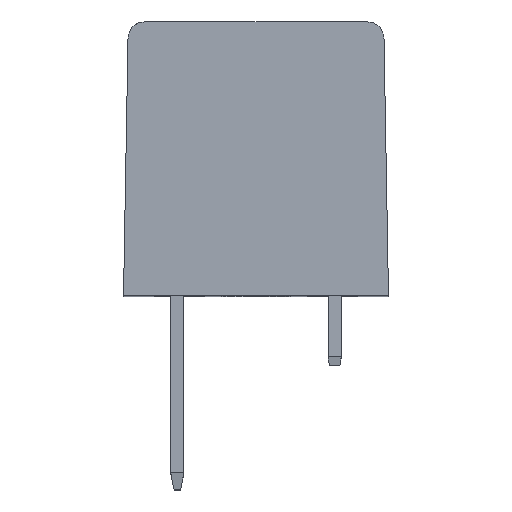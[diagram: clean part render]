
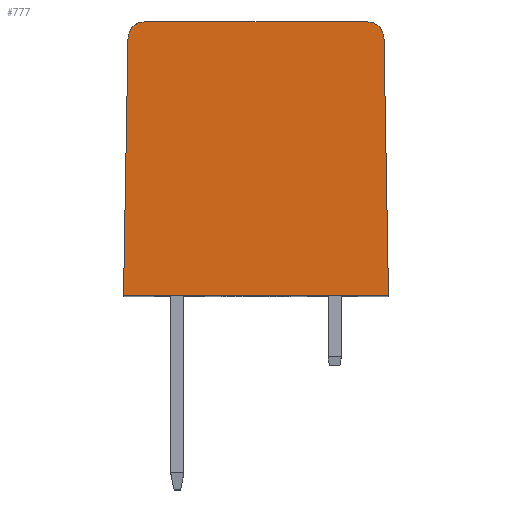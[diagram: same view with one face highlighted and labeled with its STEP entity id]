
A CAD part, top view. The second image highlights one B-rep face of the part: STEP entity #777.
In plain terms, the highlighted planar face has unit normal (0, 0, 1).
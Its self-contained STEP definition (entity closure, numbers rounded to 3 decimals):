
#42 = CARTESIAN_POINT ( 'NONE',  ( -15.729, 15.517, 0. ) ) ;
#49 = CARTESIAN_POINT ( 'NONE',  ( -14.729, 16.5, 0. ) ) ;
#527 = AXIS2_PLACEMENT_3D ( 'NONE', #9734, #9906, #12997 ) ;
#640 = EDGE_CURVE ( 'NONE', #5553, #1854, #11127, .T. ) ;
#777 = ADVANCED_FACE ( 'NONE', ( #4967 ), #10775, .T. ) ;
#809 = EDGE_CURVE ( 'NONE', #6269, #9613, #10135, .T. ) ;
#1854 = VERTEX_POINT ( 'NONE', #8728 ) ;
#2157 = ORIENTED_EDGE ( 'NONE', *, *, #10945, .T. ) ;
#2342 = VERTEX_POINT ( 'NONE', #49 ) ;
#2671 = DIRECTION ( 'NONE',  ( -0.017, -1., 0. ) ) ;
#2824 = CARTESIAN_POINT ( 'NONE',  ( 0., 0., 0. ) ) ;
#3509 = AXIS2_PLACEMENT_3D ( 'NONE', #9544, #6417, #11759 ) ;
#3906 = LINE ( 'NONE', #10730, #5681 ) ;
#4561 = DIRECTION ( 'NONE',  ( 1., 0., 0. ) ) ;
#4667 = AXIS2_PLACEMENT_3D ( 'NONE', #6617, #11875, #4561 ) ;
#4967 = FACE_OUTER_BOUND ( 'NONE', #10067, .T. ) ;
#5553 = VERTEX_POINT ( 'NONE', #10254 ) ;
#5620 = CARTESIAN_POINT ( 'NONE',  ( -16., 0., 0. ) ) ;
#5681 = VECTOR ( 'NONE', #6412, 1000. ) ;
#6269 = VERTEX_POINT ( 'NONE', #42 ) ;
#6412 = DIRECTION ( 'NONE',  ( -0.017, 1., 0. ) ) ;
#6417 = DIRECTION ( 'NONE',  ( 0., 0., -1. ) ) ;
#6428 = DIRECTION ( 'NONE',  ( 1., 0., 0. ) ) ;
#6475 = EDGE_CURVE ( 'NONE', #9613, #8262, #6501, .T. ) ;
#6501 = LINE ( 'NONE', #11766, #11217 ) ;
#6617 = CARTESIAN_POINT ( 'NONE',  ( -14.729, 15.5, 0. ) ) ;
#7907 = LINE ( 'NONE', #9696, #10181 ) ;
#8262 = VERTEX_POINT ( 'NONE', #2824 ) ;
#8728 = CARTESIAN_POINT ( 'NONE',  ( -0.271, 15.517, 0. ) ) ;
#8920 = ORIENTED_EDGE ( 'NONE', *, *, #809, .T. ) ;
#9120 = EDGE_CURVE ( 'NONE', #8262, #1854, #3906, .T. ) ;
#9544 = CARTESIAN_POINT ( 'NONE',  ( -1.271, 15.5, 0. ) ) ;
#9613 = VERTEX_POINT ( 'NONE', #12362 ) ;
#9696 = CARTESIAN_POINT ( 'NONE',  ( -16., 16.5, 0. ) ) ;
#9734 = CARTESIAN_POINT ( 'NONE',  ( -8., 0., 0. ) ) ;
#9787 = ORIENTED_EDGE ( 'NONE', *, *, #9120, .T. ) ;
#9788 = DIRECTION ( 'NONE',  ( -1., 0., 0. ) ) ;
#9906 = DIRECTION ( 'NONE',  ( 0., 0., 1. ) ) ;
#10067 = EDGE_LOOP ( 'NONE', ( #9787, #11246, #2157, #11658, #8920, #10679 ) ) ;
#10135 = LINE ( 'NONE', #5620, #12427 ) ;
#10181 = VECTOR ( 'NONE', #9788, 1000. ) ;
#10254 = CARTESIAN_POINT ( 'NONE',  ( -1.271, 16.5, 0. ) ) ;
#10478 = CIRCLE ( 'NONE', #4667, 1. ) ;
#10679 = ORIENTED_EDGE ( 'NONE', *, *, #6475, .T. ) ;
#10730 = CARTESIAN_POINT ( 'NONE',  ( 0., 0., 0. ) ) ;
#10775 = PLANE ( 'NONE',  #527 ) ;
#10945 = EDGE_CURVE ( 'NONE', #5553, #2342, #7907, .T. ) ;
#11127 = CIRCLE ( 'NONE', #3509, 1. ) ;
#11217 = VECTOR ( 'NONE', #6428, 1000. ) ;
#11246 = ORIENTED_EDGE ( 'NONE', *, *, #640, .F. ) ;
#11658 = ORIENTED_EDGE ( 'NONE', *, *, #12126, .F. ) ;
#11759 = DIRECTION ( 'NONE',  ( 1., 0., 0. ) ) ;
#11766 = CARTESIAN_POINT ( 'NONE',  ( -16., 0., 0. ) ) ;
#11875 = DIRECTION ( 'NONE',  ( 0., 0., -1. ) ) ;
#12126 = EDGE_CURVE ( 'NONE', #6269, #2342, #10478, .T. ) ;
#12362 = CARTESIAN_POINT ( 'NONE',  ( -16., 0., 0. ) ) ;
#12427 = VECTOR ( 'NONE', #2671, 1000. ) ;
#12997 = DIRECTION ( 'NONE',  ( 1., 0., 0. ) ) ;
